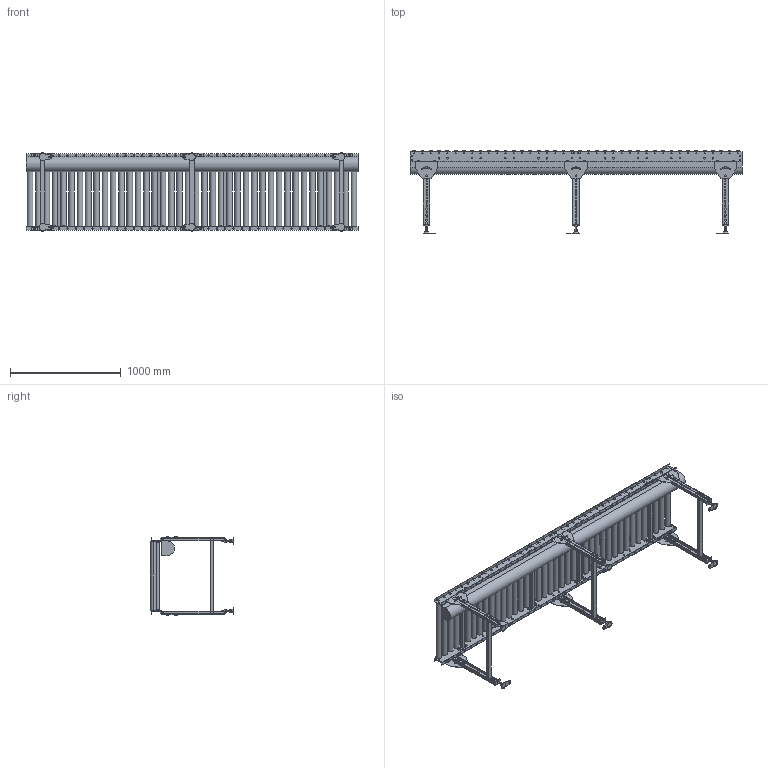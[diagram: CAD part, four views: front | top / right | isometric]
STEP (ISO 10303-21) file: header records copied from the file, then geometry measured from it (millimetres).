
FILE_DESCRIPTION (( 'STEP AP214' ), '1' );
FILE_NAME ('MCD50-ストレート-75P-630.STEP', '2022-08-01T02:04:56', ( '' ), ( '' ), 'SwSTEP 2.0', 'SolidWorks 2017', '' );
FILE_SCHEMA (( 'AUTOMOTIVE_DESIGN' ));
Length unit declared in the file: millimetre
Products named in the file (1): MCD50-ストレート-75P-630
Bounding box: 3000 x 750 x 714.4 mm (x, y, z)
Volume: 100246802.3 mm3; surface area: 8997441.2 mm2
Topology: 28 solids, 74 shells, 4058 faces, 11056 edges, 7024 vertices
Faces by surface type: plane 2573, cylinder 1473, cone 12
Entity records: 175013 total; most frequent: DIRECTION 23112, CARTESIAN_POINT 22535, ORIENTED_EDGE 22112, EDGE_CURVE 11056, AXIS2_PLACEMENT_3D 8009, VECTOR 7094, LINE 7094, VERTEX_POINT 7024
